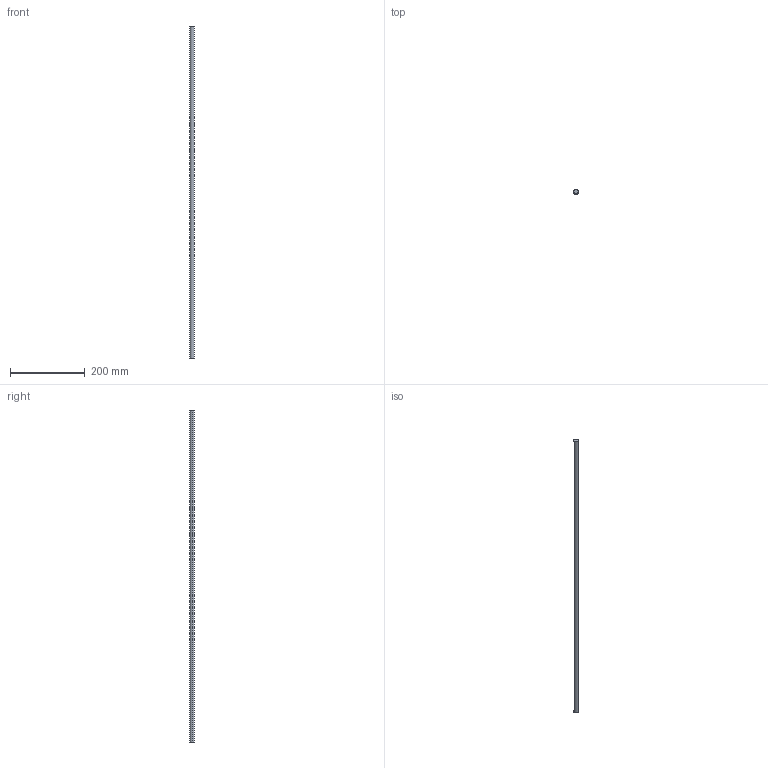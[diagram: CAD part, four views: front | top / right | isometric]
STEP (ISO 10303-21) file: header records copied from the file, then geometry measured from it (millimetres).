
FILE_DESCRIPTION (( 'STEP AP214' ), '1' );
FILE_NAME ('Magic Reling quer - S18_S19 - 1000.step', '2010-09-07T14:56:14', ( 'grass' ), ( '' ), 'SwSTEP 2.0', 'SolidWorks 2010', '' );
FILE_SCHEMA (( 'AUTOMOTIVE_DESIGN' ));
Length unit declared in the file: millimetre
Products named in the file (1): Magic Reling quer - S18_S19 - 1000
Bounding box: 12 x 12 x 891 mm (x, y, z)
Volume: 100769.7 mm3; surface area: 33816.1 mm2
Topology: 1 solids, 1 shells, 4 faces, 6 edges, 4 vertices
Faces by surface type: cylinder 2, plane 2
Entity records: 128 total; most frequent: DIRECTION 20, CARTESIAN_POINT 15, ORIENTED_EDGE 12, AXIS2_PLACEMENT_3D 9, EDGE_CURVE 6, EDGE_LOOP 4, FACE_OUTER_BOUND 4, CIRCLE 4
